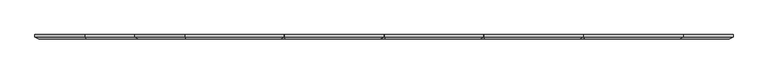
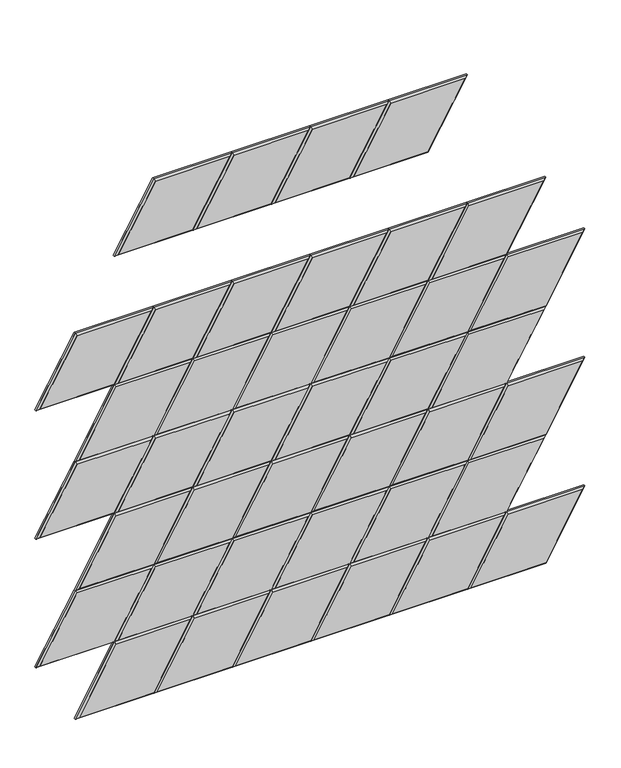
"""IFC4 building model written with IfcOpenShell, lengths in millimetres: proxy geometry, Wall_Cissu 5.3dm."""

from ifc_helpers import new_model, si_unit, origin, place, context, project, spatial, faceted_brep, source, transform, mapped, element, save


def generic_models_2b23b831(model_context):
    return source(origin(), model_context, "Body", "Brep", [
        faceted_brep([(5769.3151491, 6.037064, 1935.7399825), (6048.7151491, 6.037064, 1935.7399825), (5909.0151491, 6.037064, 1693.7724847), (5629.6151491, 6.037064, 1693.7724847), (5769.3151491, 0.037064, 1935.7399825), (5629.6151491, 0.037064, 1693.7724847), (5909.0151491, 0.037064, 1693.7724847), (6048.7151491, 0.037064, 1935.7399825), (5905.5510475, -5.962936, 1699.7724847), (6038.3228443, -5.962936, 1929.7399825), (5772.7792507, -5.962936, 1929.7399825), (5640.007454, -5.962936, 1699.7724847)], [[[0, 1, 2, 3]], [[4, 0, 3, 5]], [[5, 3, 2, 6]], [[6, 2, 1, 7]], [[7, 1, 0, 4]], [[8, 9, 10, 11]], [[4, 5, 11, 10]], [[5, 6, 8, 11]], [[6, 7, 9, 8]], [[7, 4, 10, 9]]]),
        faceted_brep([(5489.9151491, 6.037064, 1935.7399825), (5769.3151491, 6.037064, 1935.7399825), (5629.6151491, 6.037064, 1693.7724847), (5350.2151491, 6.037064, 1693.7724847), (5489.9151491, 0.037064, 1935.7399825), (5350.2151491, 0.037064, 1693.7724847), (5629.6151491, 0.037064, 1693.7724847), (5769.3151491, 0.037064, 1935.7399825), (5626.1510475, -5.962936, 1699.7724847), (5758.9228443, -5.962936, 1929.7399825), (5493.3792507, -5.962936, 1929.7399825), (5360.607454, -5.962936, 1699.7724847)], [[[0, 1, 2, 3]], [[4, 0, 3, 5]], [[5, 3, 2, 6]], [[6, 2, 1, 7]], [[7, 1, 0, 4]], [[8, 9, 10, 11]], [[4, 5, 11, 10]], [[5, 6, 8, 11]], [[6, 7, 9, 8]], [[7, 4, 10, 9]]]),
        faceted_brep([(5210.5151491, 6.037064, 1935.7399825), (5489.9151491, 6.037064, 1935.7399825), (5350.2151491, 6.037064, 1693.7724847), (5070.8151491, 6.037064, 1693.7724847), (5210.5151491, 0.037064, 1935.7399825), (5070.8151491, 0.037064, 1693.7724847), (5350.2151491, 0.037064, 1693.7724847), (5489.9151491, 0.037064, 1935.7399825), (5346.7510475, -5.962936, 1699.7724847), (5479.5228443, -5.962936, 1929.7399825), (5213.9792507, -5.962936, 1929.7399825), (5081.207454, -5.962936, 1699.7724847)], [[[0, 1, 2, 3]], [[4, 0, 3, 5]], [[5, 3, 2, 6]], [[6, 2, 1, 7]], [[7, 1, 0, 4]], [[8, 9, 10, 11]], [[4, 5, 11, 10]], [[5, 6, 8, 11]], [[6, 7, 9, 8]], [[7, 4, 10, 9]]]),
        faceted_brep([(4931.1151491, 6.037064, 1935.7399825), (5210.5151491, 6.037064, 1935.7399825), (5070.8151491, 6.037064, 1693.7724847), (4791.4151491, 6.037064, 1693.7724847), (4931.1151491, 0.037064, 1935.7399825), (4791.4151491, 0.037064, 1693.7724847), (5070.8151491, 0.037064, 1693.7724847), (5210.5151491, 0.037064, 1935.7399825), (5067.3510475, -5.962936, 1699.7724847), (5200.1228443, -5.962936, 1929.7399825), (4934.5792507, -5.962936, 1929.7399825), (4801.807454, -5.962936, 1699.7724847)], [[[0, 1, 2, 3]], [[4, 0, 3, 5]], [[5, 3, 2, 6]], [[6, 2, 1, 7]], [[7, 1, 0, 4]], [[8, 9, 10, 11]], [[4, 5, 11, 10]], [[5, 6, 8, 11]], [[6, 7, 9, 8]], [[7, 4, 10, 9]]]),
        faceted_brep([(4651.7151491, 6.037064, 1451.8049869), (4931.1151491, 6.037064, 1451.8049869), (4791.4151491, 6.037064, 1209.8374891), (4512.0151491, 6.037064, 1209.8374891), (4651.7151491, 0.037064, 1451.8049869), (4512.0151491, 0.037064, 1209.8374891), (4791.4151491, 0.037064, 1209.8374891), (4931.1151491, 0.037064, 1451.8049869), (4787.9510475, -5.962936, 1215.8374891), (4920.7228443, -5.962936, 1445.8049869), (4655.1792507, -5.962936, 1445.8049869), (4522.407454, -5.962936, 1215.8374891)], [[[0, 1, 2, 3]], [[4, 0, 3, 5]], [[5, 3, 2, 6]], [[6, 2, 1, 7]], [[7, 1, 0, 4]], [[8, 9, 10, 11]], [[4, 5, 11, 10]], [[5, 6, 8, 11]], [[6, 7, 9, 8]], [[7, 4, 10, 9]]]),
        faceted_brep([(4791.4151491, 6.037064, 1209.8374891), (5070.8151491, 6.037064, 1209.8374891), (4931.1151491, 6.037064, 967.8699913), (4651.7151491, 6.037064, 967.8699913), (4791.4151491, 0.037064, 1209.8374891), (4651.7151491, 0.037064, 967.8699913), (4931.1151491, 0.037064, 967.8699913), (5070.8151491, 0.037064, 1209.8374891), (4927.6510475, -5.962936, 973.8699913), (5060.4228443, -5.962936, 1203.8374891), (4794.8792507, -5.962936, 1203.8374891), (4662.107454, -5.962936, 973.8699913)], [[[0, 1, 2, 3]], [[4, 0, 3, 5]], [[5, 3, 2, 6]], [[6, 2, 1, 7]], [[7, 1, 0, 4]], [[8, 9, 10, 11]], [[4, 5, 11, 10]], [[5, 6, 8, 11]], [[6, 7, 9, 8]], [[7, 4, 10, 9]]]),
        faceted_brep([(6188.4151491, 6.037064, 1209.8374891), (6467.8151491, 6.037064, 1209.8374891), (6328.1151491, 6.037064, 967.8699913), (6048.7151491, 6.037064, 967.8699913), (6188.4151491, 0.037064, 1209.8374891), (6048.7151491, 0.037064, 967.8699913), (6328.1151491, 0.037064, 967.8699913), (6467.8151491, 0.037064, 1209.8374891), (6324.6510475, -5.962936, 973.8699913), (6457.4228443, -5.962936, 1203.8374891), (6191.8792507, -5.962936, 1203.8374891), (6059.107454, -5.962936, 973.8699913)], [[[0, 1, 2, 3]], [[4, 0, 3, 5]], [[5, 3, 2, 6]], [[6, 2, 1, 7]], [[7, 1, 0, 4]], [[8, 9, 10, 11]], [[4, 5, 11, 10]], [[5, 6, 8, 11]], [[6, 7, 9, 8]], [[7, 4, 10, 9]]]),
        faceted_brep([(5909.0151491, 6.037064, 1209.8374891), (6188.4151491, 6.037064, 1209.8374891), (6048.7151491, 6.037064, 967.8699913), (5769.3151491, 6.037064, 967.8699913), (5909.0151491, 0.037064, 1209.8374891), (5769.3151491, 0.037064, 967.8699913), (6048.7151491, 0.037064, 967.8699913), (6188.4151491, 0.037064, 1209.8374891), (6045.2510475, -5.962936, 973.8699913), (6178.0228443, -5.962936, 1203.8374891), (5912.4792507, -5.962936, 1203.8374891), (5779.707454, -5.962936, 973.8699913)], [[[0, 1, 2, 3]], [[4, 0, 3, 5]], [[5, 3, 2, 6]], [[6, 2, 1, 7]], [[7, 1, 0, 4]], [[8, 9, 10, 11]], [[4, 5, 11, 10]], [[5, 6, 8, 11]], [[6, 7, 9, 8]], [[7, 4, 10, 9]]]),
        faceted_brep([(5629.6151491, 6.037064, 1209.8374891), (5909.0151491, 6.037064, 1209.8374891), (5769.3151491, 6.037064, 967.8699913), (5489.9151491, 6.037064, 967.8699913), (5629.6151491, 0.037064, 1209.8374891), (5489.9151491, 0.037064, 967.8699913), (5769.3151491, 0.037064, 967.8699913), (5909.0151491, 0.037064, 1209.8374891), (5765.8510475, -5.962936, 973.8699913), (5898.6228443, -5.962936, 1203.8374891), (5633.0792507, -5.962936, 1203.8374891), (5500.307454, -5.962936, 973.8699913)], [[[0, 1, 2, 3]], [[4, 0, 3, 5]], [[5, 3, 2, 6]], [[6, 2, 1, 7]], [[7, 1, 0, 4]], [[8, 9, 10, 11]], [[4, 5, 11, 10]], [[5, 6, 8, 11]], [[6, 7, 9, 8]], [[7, 4, 10, 9]]]),
        faceted_brep([(5350.2151491, 6.037064, 1209.8374891), (5629.6151491, 6.037064, 1209.8374891), (5489.9151491, 6.037064, 967.8699913), (5210.5151491, 6.037064, 967.8699913), (5350.2151491, 0.037064, 1209.8374891), (5210.5151491, 0.037064, 967.8699913), (5489.9151491, 0.037064, 967.8699913), (5629.6151491, 0.037064, 1209.8374891), (5486.4510475, -5.962936, 973.8699913), (5619.2228443, -5.962936, 1203.8374891), (5353.6792507, -5.962936, 1203.8374891), (5220.907454, -5.962936, 973.8699913)], [[[0, 1, 2, 3]], [[4, 0, 3, 5]], [[5, 3, 2, 6]], [[6, 2, 1, 7]], [[7, 1, 0, 4]], [[8, 9, 10, 11]], [[4, 5, 11, 10]], [[5, 6, 8, 11]], [[6, 7, 9, 8]], [[7, 4, 10, 9]]]),
        faceted_brep([(5070.8151491, 6.037064, 1209.8374891), (5350.2151491, 6.037064, 1209.8374891), (5210.5151491, 6.037064, 967.8699913), (4931.1151491, 6.037064, 967.8699913), (5070.8151491, 0.037064, 1209.8374891), (4931.1151491, 0.037064, 967.8699913), (5210.5151491, 0.037064, 967.8699913), (5350.2151491, 0.037064, 1209.8374891), (5207.0510475, -5.962936, 973.8699913), (5339.8228443, -5.962936, 1203.8374891), (5074.2792507, -5.962936, 1203.8374891), (4941.507454, -5.962936, 973.8699913)], [[[0, 1, 2, 3]], [[4, 0, 3, 5]], [[5, 3, 2, 6]], [[6, 2, 1, 7]], [[7, 1, 0, 4]], [[8, 9, 10, 11]], [[4, 5, 11, 10]], [[5, 6, 8, 11]], [[6, 7, 9, 8]], [[7, 4, 10, 9]]]),
        faceted_brep([(4931.1151491, 6.037064, 1451.8049869), (5210.5151491, 6.037064, 1451.8049869), (5070.8151491, 6.037064, 1209.8374891), (4791.4151491, 6.037064, 1209.8374891), (4931.1151491, 0.037064, 1451.8049869), (4791.4151491, 0.037064, 1209.8374891), (5070.8151491, 0.037064, 1209.8374891), (5210.5151491, 0.037064, 1451.8049869), (5067.3510475, -5.962936, 1215.8374891), (5200.1228443, -5.962936, 1445.8049869), (4934.5792507, -5.962936, 1445.8049869), (4801.807454, -5.962936, 1215.8374891)], [[[0, 1, 2, 3]], [[4, 0, 3, 5]], [[5, 3, 2, 6]], [[6, 2, 1, 7]], [[7, 1, 0, 4]], [[8, 9, 10, 11]], [[4, 5, 11, 10]], [[5, 6, 8, 11]], [[6, 7, 9, 8]], [[7, 4, 10, 9]]]),
        faceted_brep([(6048.7151491, 6.037064, 1451.8049869), (6328.1151491, 6.037064, 1451.8049869), (6188.4151491, 6.037064, 1209.8374891), (5909.0151491, 6.037064, 1209.8374891), (6048.7151491, 0.037064, 1451.8049869), (5909.0151491, 0.037064, 1209.8374891), (6188.4151491, 0.037064, 1209.8374891), (6328.1151491, 0.037064, 1451.8049869), (6184.9510475, -5.962936, 1215.8374891), (6317.7228443, -5.962936, 1445.8049869), (6052.1792507, -5.962936, 1445.8049869), (5919.407454, -5.962936, 1215.8374891)], [[[0, 1, 2, 3]], [[4, 0, 3, 5]], [[5, 3, 2, 6]], [[6, 2, 1, 7]], [[7, 1, 0, 4]], [[8, 9, 10, 11]], [[4, 5, 11, 10]], [[5, 6, 8, 11]], [[6, 7, 9, 8]], [[7, 4, 10, 9]]]),
        faceted_brep([(5769.3151491, 6.037064, 1451.8049869), (6048.7151491, 6.037064, 1451.8049869), (5909.0151491, 6.037064, 1209.8374891), (5629.6151491, 6.037064, 1209.8374891), (5769.3151491, 0.037064, 1451.8049869), (5629.6151491, 0.037064, 1209.8374891), (5909.0151491, 0.037064, 1209.8374891), (6048.7151491, 0.037064, 1451.8049869), (5905.5510475, -5.962936, 1215.8374891), (6038.3228443, -5.962936, 1445.8049869), (5772.7792507, -5.962936, 1445.8049869), (5640.007454, -5.962936, 1215.8374891)], [[[0, 1, 2, 3]], [[4, 0, 3, 5]], [[5, 3, 2, 6]], [[6, 2, 1, 7]], [[7, 1, 0, 4]], [[8, 9, 10, 11]], [[4, 5, 11, 10]], [[5, 6, 8, 11]], [[6, 7, 9, 8]], [[7, 4, 10, 9]]]),
        faceted_brep([(5489.9151491, 6.037064, 1451.8049869), (5769.3151491, 6.037064, 1451.8049869), (5629.6151491, 6.037064, 1209.8374891), (5350.2151491, 6.037064, 1209.8374891), (5489.9151491, 0.037064, 1451.8049869), (5350.2151491, 0.037064, 1209.8374891), (5629.6151491, 0.037064, 1209.8374891), (5769.3151491, 0.037064, 1451.8049869), (5626.1510475, -5.962936, 1215.8374891), (5758.9228443, -5.962936, 1445.8049869), (5493.3792507, -5.962936, 1445.8049869), (5360.607454, -5.962936, 1215.8374891)], [[[0, 1, 2, 3]], [[4, 0, 3, 5]], [[5, 3, 2, 6]], [[6, 2, 1, 7]], [[7, 1, 0, 4]], [[8, 9, 10, 11]], [[4, 5, 11, 10]], [[5, 6, 8, 11]], [[6, 7, 9, 8]], [[7, 4, 10, 9]]]),
        faceted_brep([(5210.5151491, 6.037064, 1451.8049869), (5489.9151491, 6.037064, 1451.8049869), (5350.2151491, 6.037064, 1209.8374891), (5070.8151491, 6.037064, 1209.8374891), (5210.5151491, 0.037064, 1451.8049869), (5070.8151491, 0.037064, 1209.8374891), (5350.2151491, 0.037064, 1209.8374891), (5489.9151491, 0.037064, 1451.8049869), (5346.7510475, -5.962936, 1215.8374891), (5479.5228443, -5.962936, 1445.8049869), (5213.9792507, -5.962936, 1445.8049869), (5081.207454, -5.962936, 1215.8374891)], [[[0, 1, 2, 3]], [[4, 0, 3, 5]], [[5, 3, 2, 6]], [[6, 2, 1, 7]], [[7, 1, 0, 4]], [[8, 9, 10, 11]], [[4, 5, 11, 10]], [[5, 6, 8, 11]], [[6, 7, 9, 8]], [[7, 4, 10, 9]]]),
        faceted_brep([(6188.4151491, 6.037064, 725.9024935), (6467.8151491, 6.037064, 725.9024935), (6328.1151491, 6.037064, 483.9349956), (6048.7151491, 6.037064, 483.9349956), (6188.4151491, 0.037064, 725.9024935), (6048.7151491, 0.037064, 483.9349956), (6328.1151491, 0.037064, 483.9349956), (6467.8151491, 0.037064, 725.9024935), (6324.6510475, -5.962936, 489.9349956), (6457.4228443, -5.962936, 719.9024935), (6191.8792507, -5.962936, 719.9024935), (6059.107454, -5.962936, 489.9349956)], [[[0, 1, 2, 3]], [[4, 0, 3, 5]], [[5, 3, 2, 6]], [[6, 2, 1, 7]], [[7, 1, 0, 4]], [[8, 9, 10, 11]], [[4, 5, 11, 10]], [[5, 6, 8, 11]], [[6, 7, 9, 8]], [[7, 4, 10, 9]]]),
        faceted_brep([(5909.0151491, 6.037064, 725.9024935), (6188.4151491, 6.037064, 725.9024935), (6048.7151491, 6.037064, 483.9349956), (5769.3151491, 6.037064, 483.9349956), (5909.0151491, 0.037064, 725.9024935), (5769.3151491, 0.037064, 483.9349956), (6048.7151491, 0.037064, 483.9349956), (6188.4151491, 0.037064, 725.9024935), (6045.2510475, -5.962936, 489.9349956), (6178.0228443, -5.962936, 719.9024935), (5912.4792507, -5.962936, 719.9024935), (5779.707454, -5.962936, 489.9349956)], [[[0, 1, 2, 3]], [[4, 0, 3, 5]], [[5, 3, 2, 6]], [[6, 2, 1, 7]], [[7, 1, 0, 4]], [[8, 9, 10, 11]], [[4, 5, 11, 10]], [[5, 6, 8, 11]], [[6, 7, 9, 8]], [[7, 4, 10, 9]]]),
        faceted_brep([(5629.6151491, 6.037064, 725.9024935), (5909.0151491, 6.037064, 725.9024935), (5769.3151491, 6.037064, 483.9349956), (5489.9151491, 6.037064, 483.9349956), (5629.6151491, 0.037064, 725.9024935), (5489.9151491, 0.037064, 483.9349956), (5769.3151491, 0.037064, 483.9349956), (5909.0151491, 0.037064, 725.9024935), (5765.8510475, -5.962936, 489.9349956), (5898.6228443, -5.962936, 719.9024935), (5633.0792507, -5.962936, 719.9024935), (5500.307454, -5.962936, 489.9349956)], [[[0, 1, 2, 3]], [[4, 0, 3, 5]], [[5, 3, 2, 6]], [[6, 2, 1, 7]], [[7, 1, 0, 4]], [[8, 9, 10, 11]], [[4, 5, 11, 10]], [[5, 6, 8, 11]], [[6, 7, 9, 8]], [[7, 4, 10, 9]]]),
        faceted_brep([(5350.2151491, 6.037064, 725.9024935), (5629.6151491, 6.037064, 725.9024935), (5489.9151491, 6.037064, 483.9349956), (5210.5151491, 6.037064, 483.9349956), (5350.2151491, 0.037064, 725.9024935), (5210.5151491, 0.037064, 483.9349956), (5489.9151491, 0.037064, 483.9349956), (5629.6151491, 0.037064, 725.9024935), (5486.4510475, -5.962936, 489.9349956), (5619.2228443, -5.962936, 719.9024935), (5353.6792507, -5.962936, 719.9024935), (5220.907454, -5.962936, 489.9349956)], [[[0, 1, 2, 3]], [[4, 0, 3, 5]], [[5, 3, 2, 6]], [[6, 2, 1, 7]], [[7, 1, 0, 4]], [[8, 9, 10, 11]], [[4, 5, 11, 10]], [[5, 6, 8, 11]], [[6, 7, 9, 8]], [[7, 4, 10, 9]]]),
        faceted_brep([(5070.8151491, 6.037064, 725.9024935), (5350.2151491, 6.037064, 725.9024935), (5210.5151491, 6.037064, 483.9349956), (4931.1151491, 6.037064, 483.9349956), (5070.8151491, 0.037064, 725.9024935), (4931.1151491, 0.037064, 483.9349956), (5210.5151491, 0.037064, 483.9349956), (5350.2151491, 0.037064, 725.9024935), (5207.0510475, -5.962936, 489.9349956), (5339.8228443, -5.962936, 719.9024935), (5074.2792507, -5.962936, 719.9024935), (4941.507454, -5.962936, 489.9349956)], [[[0, 1, 2, 3]], [[4, 0, 3, 5]], [[5, 3, 2, 6]], [[6, 2, 1, 7]], [[7, 1, 0, 4]], [[8, 9, 10, 11]], [[4, 5, 11, 10]], [[5, 6, 8, 11]], [[6, 7, 9, 8]], [[7, 4, 10, 9]]]),
        faceted_brep([(4791.4151491, 6.037064, 725.9024935), (5070.8151491, 6.037064, 725.9024935), (4931.1151491, 6.037064, 483.9349956), (4651.7151491, 6.037064, 483.9349956), (4791.4151491, 0.037064, 725.9024935), (4651.7151491, 0.037064, 483.9349956), (4931.1151491, 0.037064, 483.9349956), (5070.8151491, 0.037064, 725.9024935), (4927.6510475, -5.962936, 489.9349956), (5060.4228443, -5.962936, 719.9024935), (4794.8792507, -5.962936, 719.9024935), (4662.107454, -5.962936, 489.9349956)], [[[0, 1, 2, 3]], [[4, 0, 3, 5]], [[5, 3, 2, 6]], [[6, 2, 1, 7]], [[7, 1, 0, 4]], [[8, 9, 10, 11]], [[4, 5, 11, 10]], [[5, 6, 8, 11]], [[6, 7, 9, 8]], [[7, 4, 10, 9]]]),
        faceted_brep([(4651.7151491, 6.037064, 967.8699913), (4931.1151491, 6.037064, 967.8699913), (4791.4151491, 6.037064, 725.9024935), (4512.0151491, 6.037064, 725.9024935), (4651.7151491, 0.037064, 967.8699913), (4512.0151491, 0.037064, 725.9024935), (4791.4151491, 0.037064, 725.9024935), (4931.1151491, 0.037064, 967.8699913), (4787.9510475, -5.962936, 731.9024935), (4920.7228443, -5.962936, 961.8699913), (4655.1792507, -5.962936, 961.8699913), (4522.407454, -5.962936, 731.9024935)], [[[0, 1, 2, 3]], [[4, 0, 3, 5]], [[5, 3, 2, 6]], [[6, 2, 1, 7]], [[7, 1, 0, 4]], [[8, 9, 10, 11]], [[4, 5, 11, 10]], [[5, 6, 8, 11]], [[6, 7, 9, 8]], [[7, 4, 10, 9]]]),
        faceted_brep([(6048.7151491, 6.037064, 967.8699913), (6328.1151491, 6.037064, 967.8699913), (6188.4151491, 6.037064, 725.9024935), (5909.0151491, 6.037064, 725.9024935), (6048.7151491, 0.037064, 967.8699913), (5909.0151491, 0.037064, 725.9024935), (6188.4151491, 0.037064, 725.9024935), (6328.1151491, 0.037064, 967.8699913), (6184.9510475, -5.962936, 731.9024935), (6317.7228443, -5.962936, 961.8699913), (6052.1792507, -5.962936, 961.8699913), (5919.407454, -5.962936, 731.9024935)], [[[0, 1, 2, 3]], [[4, 0, 3, 5]], [[5, 3, 2, 6]], [[6, 2, 1, 7]], [[7, 1, 0, 4]], [[8, 9, 10, 11]], [[4, 5, 11, 10]], [[5, 6, 8, 11]], [[6, 7, 9, 8]], [[7, 4, 10, 9]]]),
        faceted_brep([(5769.3151491, 6.037064, 967.8699913), (6048.7151491, 6.037064, 967.8699913), (5909.0151491, 6.037064, 725.9024935), (5629.6151491, 6.037064, 725.9024935), (5769.3151491, 0.037064, 967.8699913), (5629.6151491, 0.037064, 725.9024935), (5909.0151491, 0.037064, 725.9024935), (6048.7151491, 0.037064, 967.8699913), (5905.5510475, -5.962936, 731.9024935), (6038.3228443, -5.962936, 961.8699913), (5772.7792507, -5.962936, 961.8699913), (5640.007454, -5.962936, 731.9024935)], [[[0, 1, 2, 3]], [[4, 0, 3, 5]], [[5, 3, 2, 6]], [[6, 2, 1, 7]], [[7, 1, 0, 4]], [[8, 9, 10, 11]], [[4, 5, 11, 10]], [[5, 6, 8, 11]], [[6, 7, 9, 8]], [[7, 4, 10, 9]]]),
        faceted_brep([(5489.9151491, 6.037064, 967.8699913), (5769.3151491, 6.037064, 967.8699913), (5629.6151491, 6.037064, 725.9024935), (5350.2151491, 6.037064, 725.9024935), (5489.9151491, 0.037064, 967.8699913), (5350.2151491, 0.037064, 725.9024935), (5629.6151491, 0.037064, 725.9024935), (5769.3151491, 0.037064, 967.8699913), (5626.1510475, -5.962936, 731.9024935), (5758.9228443, -5.962936, 961.8699913), (5493.3792507, -5.962936, 961.8699913), (5360.607454, -5.962936, 731.9024935)], [[[0, 1, 2, 3]], [[4, 0, 3, 5]], [[5, 3, 2, 6]], [[6, 2, 1, 7]], [[7, 1, 0, 4]], [[8, 9, 10, 11]], [[4, 5, 11, 10]], [[5, 6, 8, 11]], [[6, 7, 9, 8]], [[7, 4, 10, 9]]]),
        faceted_brep([(5210.5151491, 6.037064, 967.8699913), (5489.9151491, 6.037064, 967.8699913), (5350.2151491, 6.037064, 725.9024935), (5070.8151491, 6.037064, 725.9024935), (5210.5151491, 0.037064, 967.8699913), (5070.8151491, 0.037064, 725.9024935), (5350.2151491, 0.037064, 725.9024935), (5489.9151491, 0.037064, 967.8699913), (5346.7510475, -5.962936, 731.9024935), (5479.5228443, -5.962936, 961.8699913), (5213.9792507, -5.962936, 961.8699913), (5081.207454, -5.962936, 731.9024935)], [[[0, 1, 2, 3]], [[4, 0, 3, 5]], [[5, 3, 2, 6]], [[6, 2, 1, 7]], [[7, 1, 0, 4]], [[8, 9, 10, 11]], [[4, 5, 11, 10]], [[5, 6, 8, 11]], [[6, 7, 9, 8]], [[7, 4, 10, 9]]]),
        faceted_brep([(4931.1151491, 6.037064, 967.8699913), (5210.5151491, 6.037064, 967.8699913), (5070.8151491, 6.037064, 725.9024935), (4791.4151491, 6.037064, 725.9024935), (4931.1151491, 0.037064, 967.8699913), (4791.4151491, 0.037064, 725.9024935), (5070.8151491, 0.037064, 725.9024935), (5210.5151491, 0.037064, 967.8699913), (5067.3510475, -5.962936, 731.9024935), (5200.1228443, -5.962936, 961.8699913), (4934.5792507, -5.962936, 961.8699913), (4801.807454, -5.962936, 731.9024935)], [[[0, 1, 2, 3]], [[4, 0, 3, 5]], [[5, 3, 2, 6]], [[6, 2, 1, 7]], [[7, 1, 0, 4]], [[8, 9, 10, 11]], [[4, 5, 11, 10]], [[5, 6, 8, 11]], [[6, 7, 9, 8]], [[7, 4, 10, 9]]]),
        faceted_brep([(6188.4151491, 6.037064, 241.9674978), (6467.8151491, 6.037064, 241.9674978), (6328.1151491, 6.037064, 0.0), (6048.7151491, 6.037064, 0.0), (6188.4151491, 0.037064, 241.9674978), (6048.7151491, 0.037064, 0.0), (6328.1151491, 0.037064, 0.0), (6467.8151491, 0.037064, 241.9674978), (6324.6510475, -5.962936, 6.0), (6457.4228443, -5.962936, 235.9674978), (6191.8792507, -5.962936, 235.9674978), (6059.107454, -5.962936, 6.0)], [[[0, 1, 2, 3]], [[4, 0, 3, 5]], [[5, 3, 2, 6]], [[6, 2, 1, 7]], [[7, 1, 0, 4]], [[8, 9, 10, 11]], [[4, 5, 11, 10]], [[5, 6, 8, 11]], [[6, 7, 9, 8]], [[7, 4, 10, 9]]]),
        faceted_brep([(5909.0151491, 6.037064, 241.9674978), (6188.4151491, 6.037064, 241.9674978), (6048.7151491, 6.037064, 0.0), (5769.3151491, 6.037064, 0.0), (5909.0151491, 0.037064, 241.9674978), (5769.3151491, 0.037064, 0.0), (6048.7151491, 0.037064, 0.0), (6188.4151491, 0.037064, 241.9674978), (6045.2510475, -5.962936, 6.0), (6178.0228443, -5.962936, 235.9674978), (5912.4792507, -5.962936, 235.9674978), (5779.707454, -5.962936, 6.0)], [[[0, 1, 2, 3]], [[4, 0, 3, 5]], [[5, 3, 2, 6]], [[6, 2, 1, 7]], [[7, 1, 0, 4]], [[8, 9, 10, 11]], [[4, 5, 11, 10]], [[5, 6, 8, 11]], [[6, 7, 9, 8]], [[7, 4, 10, 9]]]),
        faceted_brep([(5629.6151491, 6.037064, 241.9674978), (5909.0151491, 6.037064, 241.9674978), (5769.3151491, 6.037064, 0.0), (5489.9151491, 6.037064, 0.0), (5629.6151491, 0.037064, 241.9674978), (5489.9151491, 0.037064, 0.0), (5769.3151491, 0.037064, 0.0), (5909.0151491, 0.037064, 241.9674978), (5765.8510475, -5.962936, 6.0), (5898.6228443, -5.962936, 235.9674978), (5633.0792507, -5.962936, 235.9674978), (5500.307454, -5.962936, 6.0)], [[[0, 1, 2, 3]], [[4, 0, 3, 5]], [[5, 3, 2, 6]], [[6, 2, 1, 7]], [[7, 1, 0, 4]], [[8, 9, 10, 11]], [[4, 5, 11, 10]], [[5, 6, 8, 11]], [[6, 7, 9, 8]], [[7, 4, 10, 9]]]),
        faceted_brep([(5350.2151491, 6.037064, 241.9674978), (5629.6151491, 6.037064, 241.9674978), (5489.9151491, 6.037064, 0.0), (5210.5151491, 6.037064, 0.0), (5350.2151491, 0.037064, 241.9674978), (5210.5151491, 0.037064, 0.0), (5489.9151491, 0.037064, 0.0), (5629.6151491, 0.037064, 241.9674978), (5486.4510475, -5.962936, 6.0), (5619.2228443, -5.962936, 235.9674978), (5353.6792507, -5.962936, 235.9674978), (5220.907454, -5.962936, 6.0)], [[[0, 1, 2, 3]], [[4, 0, 3, 5]], [[5, 3, 2, 6]], [[6, 2, 1, 7]], [[7, 1, 0, 4]], [[8, 9, 10, 11]], [[4, 5, 11, 10]], [[5, 6, 8, 11]], [[6, 7, 9, 8]], [[7, 4, 10, 9]]]),
        faceted_brep([(5070.8151491, 6.037064, 241.9674978), (5350.2151491, 6.037064, 241.9674978), (5210.5151491, 6.037064, 0.0), (4931.1151491, 6.037064, 0.0), (5070.8151491, 0.037064, 241.9674978), (4931.1151491, 0.037064, 0.0), (5210.5151491, 0.037064, 0.0), (5350.2151491, 0.037064, 241.9674978), (5207.0510475, -5.962936, 6.0), (5339.8228443, -5.962936, 235.9674978), (5074.2792507, -5.962936, 235.9674978), (4941.507454, -5.962936, 6.0)], [[[0, 1, 2, 3]], [[4, 0, 3, 5]], [[5, 3, 2, 6]], [[6, 2, 1, 7]], [[7, 1, 0, 4]], [[8, 9, 10, 11]], [[4, 5, 11, 10]], [[5, 6, 8, 11]], [[6, 7, 9, 8]], [[7, 4, 10, 9]]]),
        faceted_brep([(4791.4151491, 6.037064, 241.9674978), (5070.8151491, 6.037064, 241.9674978), (4931.1151491, 6.037064, 0.0), (4651.7151491, 6.037064, 0.0), (4791.4151491, 0.037064, 241.9674978), (4651.7151491, 0.037064, 0.0), (4931.1151491, 0.037064, 0.0), (5070.8151491, 0.037064, 241.9674978), (4927.6510475, -5.962936, 6.0), (5060.4228443, -5.962936, 235.9674978), (4794.8792507, -5.962936, 235.9674978), (4662.107454, -5.962936, 6.0)], [[[0, 1, 2, 3]], [[4, 0, 3, 5]], [[5, 3, 2, 6]], [[6, 2, 1, 7]], [[7, 1, 0, 4]], [[8, 9, 10, 11]], [[4, 5, 11, 10]], [[5, 6, 8, 11]], [[6, 7, 9, 8]], [[7, 4, 10, 9]]]),
        faceted_brep([(6048.7151491, 6.037064, 483.9349956), (6328.1151491, 6.037064, 483.9349956), (6188.4151491, 6.037064, 241.9674978), (5909.0151491, 6.037064, 241.9674978), (6048.7151491, 0.037064, 483.9349956), (5909.0151491, 0.037064, 241.9674978), (6188.4151491, 0.037064, 241.9674978), (6328.1151491, 0.037064, 483.9349956), (6184.9510475, -5.962936, 247.9674978), (6317.7228443, -5.962936, 477.9349956), (6052.1792507, -5.962936, 477.9349956), (5919.407454, -5.962936, 247.9674978)], [[[0, 1, 2, 3]], [[4, 0, 3, 5]], [[5, 3, 2, 6]], [[6, 2, 1, 7]], [[7, 1, 0, 4]], [[8, 9, 10, 11]], [[4, 5, 11, 10]], [[5, 6, 8, 11]], [[6, 7, 9, 8]], [[7, 4, 10, 9]]]),
        faceted_brep([(5769.3151491, 6.037064, 483.9349956), (6048.7151491, 6.037064, 483.9349956), (5909.0151491, 6.037064, 241.9674978), (5629.6151491, 6.037064, 241.9674978), (5769.3151491, 0.037064, 483.9349956), (5629.6151491, 0.037064, 241.9674978), (5909.0151491, 0.037064, 241.9674978), (6048.7151491, 0.037064, 483.9349956), (5905.5510475, -5.962936, 247.9674978), (6038.3228443, -5.962936, 477.9349956), (5772.7792507, -5.962936, 477.9349956), (5640.007454, -5.962936, 247.9674978)], [[[0, 1, 2, 3]], [[4, 0, 3, 5]], [[5, 3, 2, 6]], [[6, 2, 1, 7]], [[7, 1, 0, 4]], [[8, 9, 10, 11]], [[4, 5, 11, 10]], [[5, 6, 8, 11]], [[6, 7, 9, 8]], [[7, 4, 10, 9]]]),
        faceted_brep([(5489.9151491, 6.037064, 483.9349956), (5769.3151491, 6.037064, 483.9349956), (5629.6151491, 6.037064, 241.9674978), (5350.2151491, 6.037064, 241.9674978), (5489.9151491, 0.037064, 483.9349956), (5350.2151491, 0.037064, 241.9674978), (5629.6151491, 0.037064, 241.9674978), (5769.3151491, 0.037064, 483.9349956), (5626.1510475, -5.962936, 247.9674978), (5758.9228443, -5.962936, 477.9349956), (5493.3792507, -5.962936, 477.9349956), (5360.607454, -5.962936, 247.9674978)], [[[0, 1, 2, 3]], [[4, 0, 3, 5]], [[5, 3, 2, 6]], [[6, 2, 1, 7]], [[7, 1, 0, 4]], [[8, 9, 10, 11]], [[4, 5, 11, 10]], [[5, 6, 8, 11]], [[6, 7, 9, 8]], [[7, 4, 10, 9]]]),
        faceted_brep([(5210.5151491, 6.037064, 483.9349956), (5489.9151491, 6.037064, 483.9349956), (5350.2151491, 6.037064, 241.9674978), (5070.8151491, 6.037064, 241.9674978), (5210.5151491, 0.037064, 483.9349956), (5070.8151491, 0.037064, 241.9674978), (5350.2151491, 0.037064, 241.9674978), (5489.9151491, 0.037064, 483.9349956), (5346.7510475, -5.962936, 247.9674978), (5479.5228443, -5.962936, 477.9349956), (5213.9792507, -5.962936, 477.9349956), (5081.207454, -5.962936, 247.9674978)], [[[0, 1, 2, 3]], [[4, 0, 3, 5]], [[5, 3, 2, 6]], [[6, 2, 1, 7]], [[7, 1, 0, 4]], [[8, 9, 10, 11]], [[4, 5, 11, 10]], [[5, 6, 8, 11]], [[6, 7, 9, 8]], [[7, 4, 10, 9]]]),
        faceted_brep([(4931.1151491, 6.037064, 483.9349956), (5210.5151491, 6.037064, 483.9349956), (5070.8151491, 6.037064, 241.9674978), (4791.4151491, 6.037064, 241.9674978), (4931.1151491, 0.037064, 483.9349956), (4791.4151491, 0.037064, 241.9674978), (5070.8151491, 0.037064, 241.9674978), (5210.5151491, 0.037064, 483.9349956), (5067.3510475, -5.962936, 247.9674978), (5200.1228443, -5.962936, 477.9349956), (4934.5792507, -5.962936, 477.9349956), (4801.807454, -5.962936, 247.9674978)], [[[0, 1, 2, 3]], [[4, 0, 3, 5]], [[5, 3, 2, 6]], [[6, 2, 1, 7]], [[7, 1, 0, 4]], [[8, 9, 10, 11]], [[4, 5, 11, 10]], [[5, 6, 8, 11]], [[6, 7, 9, 8]], [[7, 4, 10, 9]]]),
        faceted_brep([(4651.7151491, 6.037064, 483.9349956), (4931.1151491, 6.037064, 483.9349956), (4791.4151491, 6.037064, 241.9674978), (4512.0151491, 6.037064, 241.9674978), (4651.7151491, 0.037064, 483.9349956), (4512.0151491, 0.037064, 241.9674978), (4791.4151491, 0.037064, 241.9674978), (4931.1151491, 0.037064, 483.9349956), (4787.9510475, -5.962936, 247.9674978), (4920.7228443, -5.962936, 477.9349956), (4655.1792507, -5.962936, 477.9349956), (4522.407454, -5.962936, 247.9674978)], [[[0, 1, 2, 3]], [[4, 0, 3, 5]], [[5, 3, 2, 6]], [[6, 2, 1, 7]], [[7, 1, 0, 4]], [[8, 9, 10, 11]], [[4, 5, 11, 10]], [[5, 6, 8, 11]], [[6, 7, 9, 8]], [[7, 4, 10, 9]]]),
    ])


if __name__ == "__main__":
    model = new_model("IFC4")
    model_context = context("Model", 3, world=origin())
    ifc_project = project(units=[si_unit("LENGTHUNIT", "METRE", prefix="MILLI")], contexts=[model_context])
    site = spatial("IfcSite", under=ifc_project)
    building = spatial("IfcBuilding", under=site)
    placement = place(None, origin())
    generic_models_shape = generic_models_2b23b831(model_context)
    element("IfcBuildingElementProxy", 1, Name="Wall_Cissu 5.3dm", ObjectType="Wall_Cissu 5.3dm", at=placement, inside=building, context=model_context, shape_type="MappedRepresentation", body=[
        mapped(generic_models_shape, transform((0.0, 0.0, 0.0), x_axis=(1.0, 0.0, 0.0), y_axis=(0.0, 1.0, 0.0), z_axis=(0.0, 0.0, 1.0))),
    ])
    save(model, "model.ifc")
